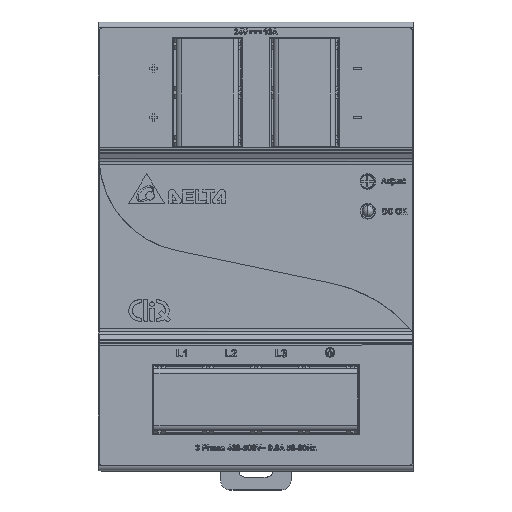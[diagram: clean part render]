
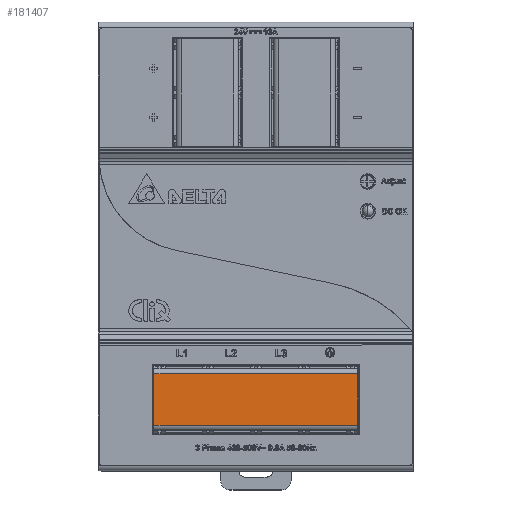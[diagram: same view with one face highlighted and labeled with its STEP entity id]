
A CAD part, top view. The second image highlights one B-rep face of the part: STEP entity #181407.
In plain terms, the highlighted planar face has unit normal (0, 0, 1) as drawn and (0, 1, 0) by its records, which use the part's own axes.
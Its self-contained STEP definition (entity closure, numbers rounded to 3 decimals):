
#181053=DIRECTION('',(0.,0.,1.));
#181054=VECTOR('',#181053,14.);
#181055=CARTESIAN_POINT('',(-27.5,0.,-7.));
#181056=LINE('',#181055,#181054);
#181134=DIRECTION('',(1.,0.,0.));
#181135=VECTOR('',#181134,55.);
#181136=CARTESIAN_POINT('',(-27.5,0.,-7.));
#181137=LINE('',#181136,#181135);
#181141=DIRECTION('',(0.,0.,1.));
#181142=VECTOR('',#181141,14.);
#181143=CARTESIAN_POINT('',(27.5,0.,-7.));
#181144=LINE('',#181143,#181142);
#181148=DIRECTION('',(1.,0.,0.));
#181149=VECTOR('',#181148,55.);
#181150=CARTESIAN_POINT('',(-27.5,0.,7.));
#181151=LINE('',#181150,#181149);
#181345=CARTESIAN_POINT('',(-27.5,0.,-7.));
#181346=CARTESIAN_POINT('',(27.5,0.,-7.));
#181347=VERTEX_POINT('',#181345);
#181348=VERTEX_POINT('',#181346);
#181357=CARTESIAN_POINT('',(-27.5,0.,7.));
#181358=CARTESIAN_POINT('',(27.5,0.,7.));
#181359=VERTEX_POINT('',#181357);
#181360=VERTEX_POINT('',#181358);
#181393=CARTESIAN_POINT('',(27.5,0.,-7.));
#181394=DIRECTION('',(0.,1.,0.));
#181395=DIRECTION('',(-1.,0.,0.));
#181396=AXIS2_PLACEMENT_3D('',#181393,#181394,#181395);
#181397=PLANE('',#181396);
#181399=ORIENTED_EDGE('',*,*,#181398,.T.);
#181401=ORIENTED_EDGE('',*,*,#181400,.T.);
#181403=ORIENTED_EDGE('',*,*,#181402,.F.);
#181404=ORIENTED_EDGE('',*,*,#181366,.F.);
#181405=EDGE_LOOP('',(#181399,#181401,#181403,#181404));
#181406=FACE_OUTER_BOUND('',#181405,.F.);
#181366=EDGE_CURVE('',#181347,#181359,#181056,.T.);
#181398=EDGE_CURVE('',#181347,#181348,#181137,.T.);
#181400=EDGE_CURVE('',#181348,#181360,#181144,.T.);
#181402=EDGE_CURVE('',#181359,#181360,#181151,.T.);
#181407=ADVANCED_FACE('',(#181406),#181397,.T.);
